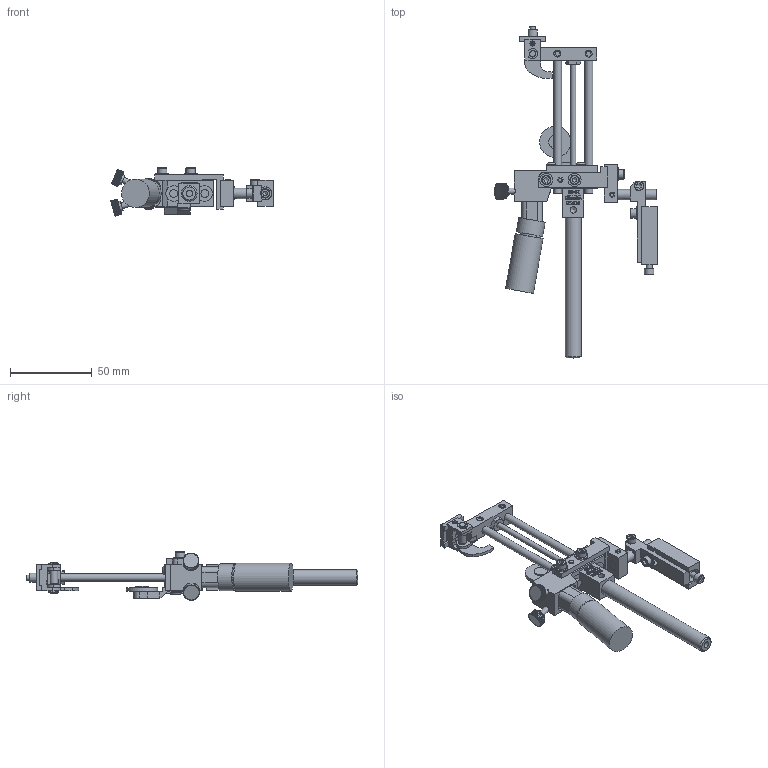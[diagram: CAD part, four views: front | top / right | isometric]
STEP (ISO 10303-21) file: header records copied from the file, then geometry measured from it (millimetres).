
FILE_DESCRIPTION((''),'2;1');
FILE_NAME('C:\Documents and Settings\Ron\My Documents\Inventor\Sprinter Drawing\Machines in Inventor\Model 22\Dot\1-eight\Ext Str\E1\Brkt\Ext\Model 22 E1 1-8 Dot ext w brkt.stp','2009-01-14T09:21:05',('Ron'),(''),'Autodesk Inventor 2008','Autodesk Inventor 2008','');
FILE_SCHEMA(('AUTOMOTIVE_DESIGN { 1 0 10303 214 1 1 1 1 }'));
Length unit declared in the file: inch
Products named in the file (1): Model 22 E1 1-8 Dot ext w brkt
Bounding box: 99.17 x 202.45 x 29.56 mm (x, y, z)
Volume: 59716.8 mm3; surface area: 35857.1 mm2
Topology: 34 solids, 34 shells, 4738 faces, 13113 edges, 8701 vertices
Faces by surface type: plane 2894, bspline 1290, cylinder 484, cone 56, torus 14
Full cylindrical faces by diameter (mm): 2.845 x3, 2.946 x2, 3.175 x5, 3.505 x7, 3.556 x2, 3.658 x2, 3.876 x1, 3.962 x9, 4.064 x1, 4.166 x3, 4.648 x2, 4.699 x1, 4.75 x1, 4.763 x2, 4.775 x2, 4.788 x1, 5.41 x2, 5.556 x1, 5.74 x6, 6.096 x1, 6.325 x2, 6.35 x3, 6.477 x1, 6.655 x1, 7.925 x4, 7.938 x1, 8.128 x1, 9.462 x1, 9.525 x1, 10.922 x1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
Entity records: 165456 total; most frequent: CARTESIAN_POINT 49073, ORIENTED_EDGE 25662, DIRECTION 18365, EDGE_CURVE 12831, VECTOR 9053, LINE 9053, VERTEX_POINT 8599, EDGE_LOOP 5258
